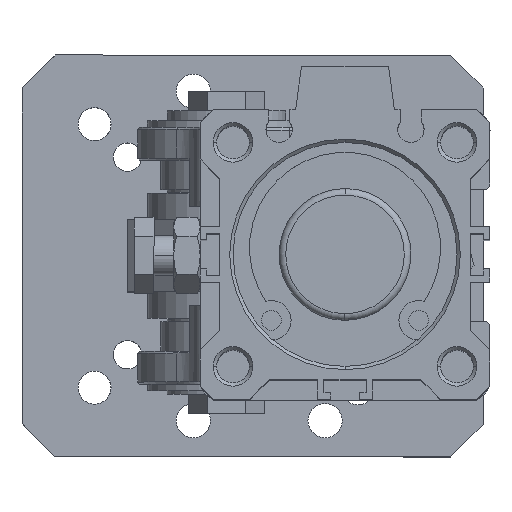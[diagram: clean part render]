
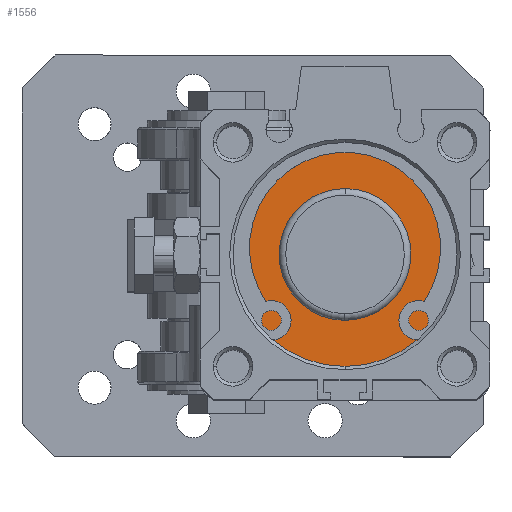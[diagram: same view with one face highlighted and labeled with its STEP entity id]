
A CAD part, top view. The second image highlights one B-rep face of the part: STEP entity #1556.
In plain terms, the highlighted planar face has unit normal (0, 0, 1).
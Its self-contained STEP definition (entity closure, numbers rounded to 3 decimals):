
#1556=ADVANCED_FACE('',(#5713,#5714),#2459,.F.);
#2459=PLANE('',#16072);
#5713=FACE_BOUND('',#6093,.T.);
#5714=FACE_BOUND('',#6094,.T.);
#6093=EDGE_LOOP('',(#7609,#7610));
#6094=EDGE_LOOP('',(#7611,#7612));
#7609=ORIENTED_EDGE('',*,*,#13272,.F.);
#7610=ORIENTED_EDGE('',*,*,#13273,.T.);
#7611=ORIENTED_EDGE('',*,*,#13274,.F.);
#7612=ORIENTED_EDGE('',*,*,#13275,.T.);
#11733=VERTEX_POINT('',#22609);
#11734=VERTEX_POINT('',#22610);
#11735=VERTEX_POINT('',#22613);
#11736=VERTEX_POINT('',#22614);
#13272=EDGE_CURVE('',#11733,#11734,#15281,.T.);
#13273=EDGE_CURVE('',#11733,#11734,#15282,.T.);
#13274=EDGE_CURVE('',#11735,#11736,#15283,.T.);
#13275=EDGE_CURVE('',#11735,#11736,#15284,.T.);
#15281=CIRCLE('',#16068,10.);
#15282=CIRCLE('',#16069,10.);
#15283=CIRCLE('',#16070,18.);
#15284=CIRCLE('',#16071,18.);
#16068=AXIS2_PLACEMENT_3D('',#22608,#18034,#18035);
#16069=AXIS2_PLACEMENT_3D('',#22611,#18036,#18037);
#16070=AXIS2_PLACEMENT_3D('',#22612,#18038,#18039);
#16071=AXIS2_PLACEMENT_3D('',#22615,#18040,#18041);
#16072=AXIS2_PLACEMENT_3D('',#22616,#18042,#18043);
#18034=DIRECTION('',(0.,0.,1.));
#18035=DIRECTION('',(0.011,1.,0.));
#18036=DIRECTION('',(0.,0.,-1.));
#18037=DIRECTION('',(0.011,1.,0.));
#18038=DIRECTION('',(0.,0.,-1.));
#18039=DIRECTION('',(0.,1.,0.));
#18040=DIRECTION('',(0.,0.,1.));
#18041=DIRECTION('',(0.,1.,0.));
#18042=DIRECTION('',(0.,0.,-1.));
#18043=DIRECTION('',(0.,1.,0.));
#22608=CARTESIAN_POINT('',(0.,0.,
2.2));
#22609=CARTESIAN_POINT('',(0.113,9.999,2.2));
#22610=CARTESIAN_POINT('',(-0.113,-9.999,2.2));
#22611=CARTESIAN_POINT('',(0.,0.,
2.2));
#22612=CARTESIAN_POINT('',(0.,0.,2.2));
#22613=CARTESIAN_POINT('',(-0.001,18.,2.2));
#22614=CARTESIAN_POINT('',(0.001,-18.,2.2));
#22615=CARTESIAN_POINT('',(0.,0.,2.2));
#22616=CARTESIAN_POINT('',(0.,0.,2.2));
